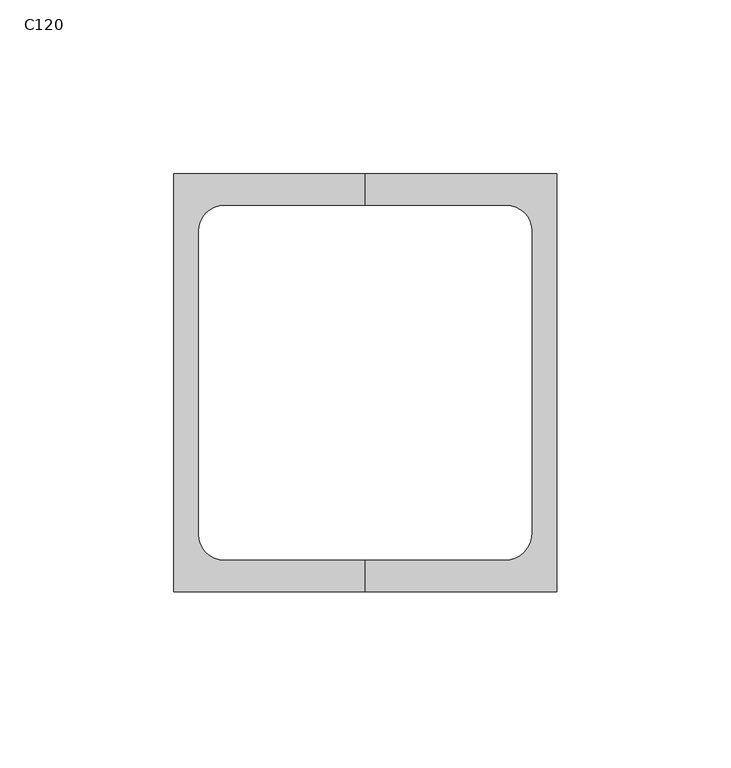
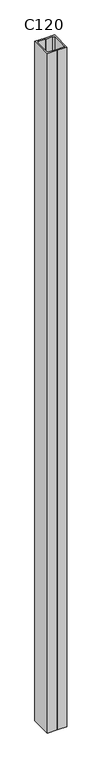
"""IFC4 building model written with IfcOpenShell, lengths in millimetres: column geometry, RPLN C - Ceowniki normalne_Column -x2 : C120."""

from ifc_helpers import new_model, si_unit, point, frame_2d, origin, origin_with_axes, place, context, project, spatial, polyline, circle_curve, trimmed, segment, composite_curve, outline, extrude, source, transform, mapped, element, save


def c120_c8b7eb78(model_context):
    return source(origin(), model_context, "Body", "SweptSolid", [
        extrude(outline(composite_curve([segment(polyline([(55.0, -60.0), (0.0, -60.0), (0.0, -51.0), (40.0, -51.0)]), True, "CONTINUOUS"), segment(trimmed(circle_curve(frame_2d((40.0, -43.0)), 8.0), [point((40.0, -51.0))], [point((48.0, -43.0))], True, "CARTESIAN"), True, "CONTINUOUS"), segment(polyline([(48.0, -43.0), (48.0, 43.5)]), True, "CONTINUOUS"), segment(trimmed(circle_curve(frame_2d((40.5, 43.5)), 7.5), [point((48.0, 43.5))], [point((40.5, 51.0))], True, "CARTESIAN"), True, "CONTINUOUS"), segment(polyline([(40.5, 51.0), (0.0, 51.0), (0.0, 60.0), (55.0, 60.0), (55.0, -60.0)]), True, "CONTINUOUS")], self_intersect=False)), origin_with_axes(), (0.0, 0.0, 1.0), 4020.0),
        extrude(outline(composite_curve([segment(polyline([(-55.0, -60.0), (-55.0, 60.0), (0.0, 60.0), (0.0, 51.0), (-40.5, 51.0)]), True, "CONTINUOUS"), segment(trimmed(circle_curve(frame_2d((-40.5, 43.5)), 7.5), [point((-40.5, 51.0))], [point((-48.0, 43.5))], True, "CARTESIAN"), True, "CONTINUOUS"), segment(polyline([(-48.0, 43.5), (-48.0, -43.5)]), True, "CONTINUOUS"), segment(trimmed(circle_curve(frame_2d((-40.5, -43.5)), 7.5), [point((-48.0, -43.5))], [point((-40.5, -51.0))], True, "CARTESIAN"), True, "CONTINUOUS"), segment(polyline([(-40.5, -51.0), (0.0, -51.0), (0.0, -60.0), (-55.0, -60.0)]), True, "CONTINUOUS")], self_intersect=False)), origin_with_axes(), (0.0, 0.0, 1.0), 4020.0),
    ])


if __name__ == "__main__":
    model = new_model("IFC4")
    model_context = context("Model", 3, world=origin())
    ifc_project = project(units=[si_unit("LENGTHUNIT", "METRE", prefix="MILLI")], contexts=[model_context])
    site = spatial("IfcSite", under=ifc_project)
    building = spatial("IfcBuilding", under=site)
    placement = place(None, origin())
    c120_shape = c120_c8b7eb78(model_context)
    element("IfcColumn", 1, ObjectType="RPLN C - Ceowniki normalne_Column -x2 : C120", at=placement, inside=building, context=model_context, shape_type="MappedRepresentation", body=[
        mapped(c120_shape, transform((0.0, 0.0, 0.0), x_axis=(1.0, 0.0, 0.0), y_axis=(0.0, 1.0, 0.0), z_axis=(0.0, 0.0, 1.0))),
    ])
    save(model, "model.ifc")
